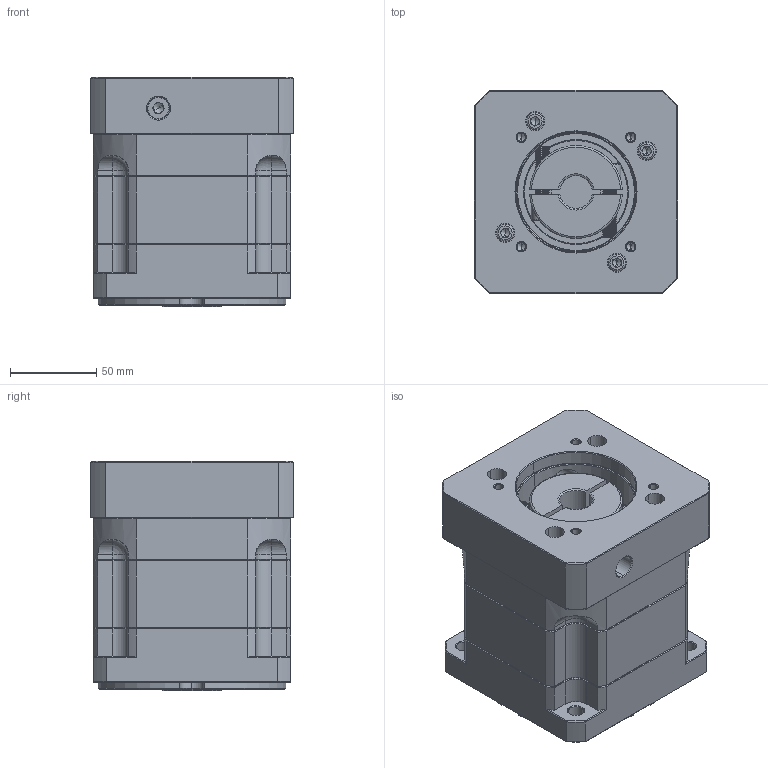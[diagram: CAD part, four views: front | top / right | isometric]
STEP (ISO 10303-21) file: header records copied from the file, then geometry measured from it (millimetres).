
FILE_DESCRIPTION (( 'STEP AP214' ), '1' );
FILE_NAME ('ZB115A-K25-L1-P2-19-70-90-M6.step', '2023-08-26T06:34:23', ( '' ), ( '' ), 'SwSTEP 2.0', 'SolidWorks 2016', '' );
FILE_SCHEMA (( 'AUTOMOTIVE_DESIGN' ));
Length unit declared in the file: millimetre
Products named in the file (1): ZB115A-K25-L1-P2-19-70-90-M6
Bounding box: 118 x 118 x 133.5 mm (x, y, z)
Volume: 1476357.2 mm3; surface area: 158676.6 mm2
Topology: 6 solids, 6 shells, 2193 faces, 5824 edges, 3731 vertices
Faces by surface type: plane 1129, bspline 390, cone 362, cylinder 280, torus 28, sphere 4
Entity records: 107889 total; most frequent: CARTESIAN_POINT 31496, ORIENTED_EDGE 11584, DIRECTION 9566, EDGE_CURVE 5792, LINE 3786, VECTOR 3786, VERTEX_POINT 3731, AXIS2_PLACEMENT_3D 2890
